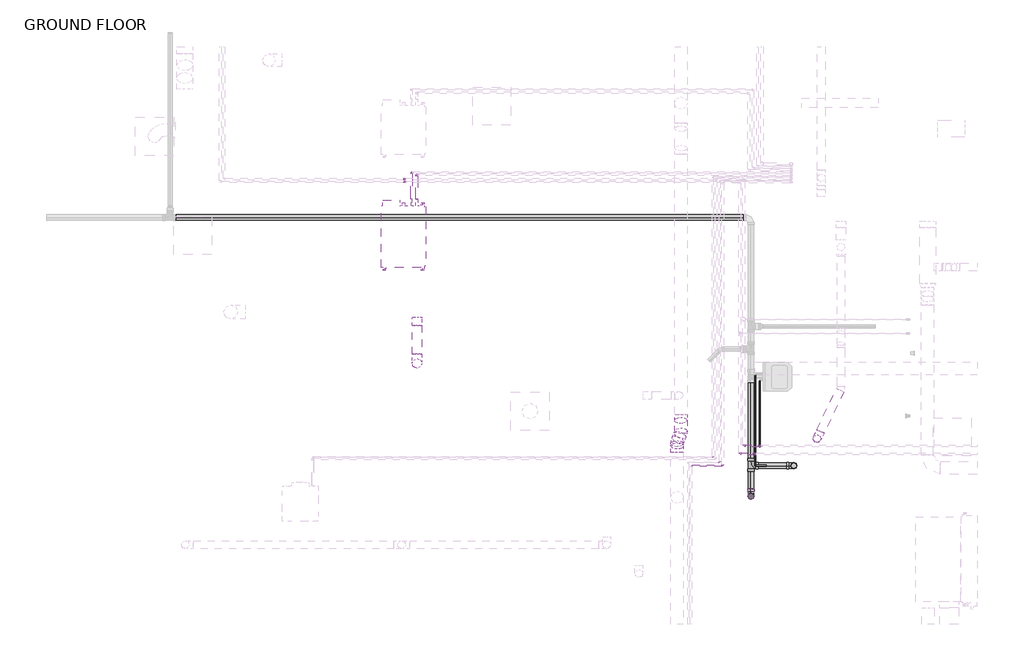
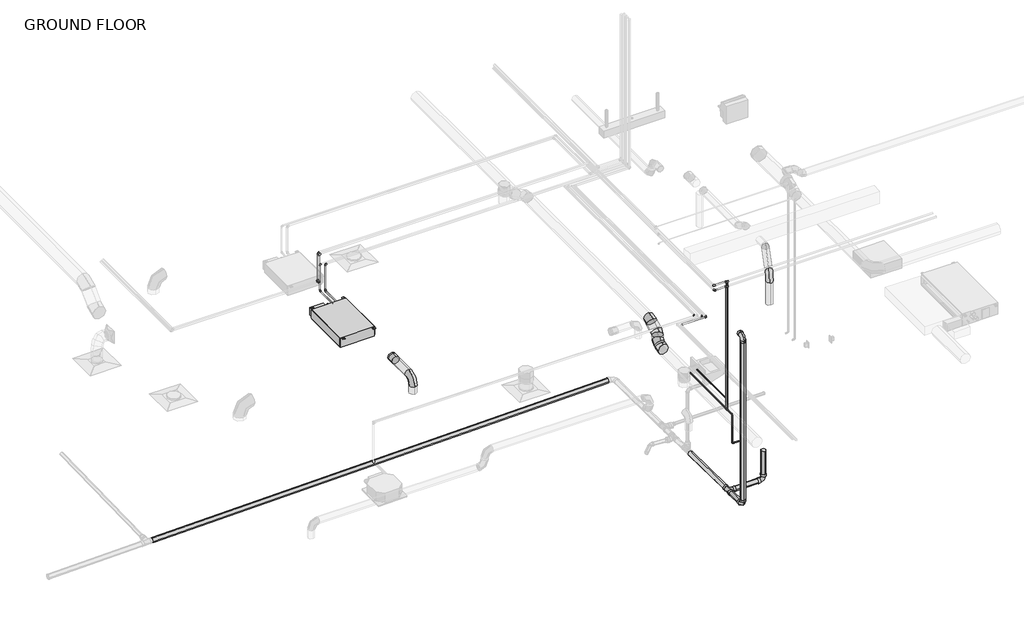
# One storey, part 12 of 22: 28 pipe fittings, 22 pipe segments, 7 duct fittings, 7 duct segments, 1 proxy.
"""IFC4 building model written with IfcOpenShell, lengths in millimetres."""

from ifc_helpers import new_model, si_unit, point, frame, frame_2d, origin, place, context, project, spatial, circle_curve, trimmed, segment, composite_curve, outline, extrude, transform, mapped, element, save
from components import mechanical_equipment_be926906, round_elbow_1_d_b37ad80b, round_elbow_1_d_c80420c1, round_elbow_1_d_9364b203, round_elbow_1_d_5bbd179f, round_takeoff_standard_d0146e83, bend_pvc_sch_40_dwv_standard_5536a2d2, bend_pvc_sch_40_dwv_standard_765d4315, bend_pvc_sch_40_dwv_standard_f7db62e3, elbow_generic_standard_c06ac706, elbow_generic_standard_738589b0, elbow_generic_standard_a088f956, elbow_generic_standard_c5dfc7a5, elbow_generic_standard_e45579ec, tee_generic_standard_d345b28c, tee_sanitary_pvc_sch_40_dwv_standard_8de014e1, transition_generic_standard_19d9bb8b, transition_generic_standard_44e35838, transition_generic_standard_df161815, transition_generic_standard_43f54093

model = new_model("IFC4")

# Units and contexts
model_context = context("Model", 3, world=origin())
ifc_project = project(units=[si_unit("LENGTHUNIT", "METRE", prefix="MILLI")], contexts=[model_context])

# Site, building, storey
site = spatial("IfcSite", under=ifc_project)
building = spatial("IfcBuilding", under=site)
storey = spatial("IfcBuildingStorey", under=building, Name="GROUND FLOOR", Elevation=30480.0)

# Proxy
placement = place(None, origin())
mechanical_equipment_shape = mechanical_equipment_be926906(model_context)
element("IfcBuildingElementProxy", 1, Name="PEFY-P-NMSU-E_Low_Profile_Ducted : PEFY-P15NMSU-E", ObjectType="PEFY-P-NMSU-E_Low_Profile_Ducted : PEFY-P15NMSU-E", at=placement, inside=storey, context=model_context, shape_type="MappedRepresentation", body=[
    mapped(mechanical_equipment_shape, transform((-15624.8774525, 6541.2842307, 33021.6591996), x_axis=(0.0, 1.0, 0.0), y_axis=(-1.0, 0.0, 0.0), z_axis=(0.0, 0.0, 1.0))),
])

# Duct fittings
round_elbow_1_d_shape = round_elbow_1_d_b37ad80b(model_context)
element("IfcDuctFitting", 2, ObjectType="Round Elbow : 1 D", at=placement, inside=storey, context=model_context, shape_type="MappedRepresentation", body=[
    mapped(round_elbow_1_d_shape, transform((-15410.4954607, 4511.0820005, 33121.6), x_axis=(0.0, -1.0, 0.0), y_axis=(0.0, 0.0, -1.0), z_axis=(1.0, 0.0, 0.0))),
])
round_elbow_1_d_2_shape = round_elbow_1_d_c80420c1(model_context)
element("IfcDuctFitting", 3, ObjectType="Round Elbow : 1 D", at=placement, inside=storey, context=model_context, shape_type="MappedRepresentation", body=[
    mapped(round_elbow_1_d_2_shape, transform((-9019.2204607, 3309.3445005, 33769.3), x_axis=(0.0, 0.0, 1.0), y_axis=(0.43029426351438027, 0.9026886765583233, 0.0), z_axis=(-0.9026886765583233, 0.43029426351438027, 0.0))),
])
round_elbow_1_d_3_shape = round_elbow_1_d_9364b203(model_context)
element("IfcDuctFitting", 4, ObjectType="Round Elbow : 1 D", at=placement, inside=storey, context=model_context, shape_type="MappedRepresentation", body=[
    mapped(round_elbow_1_d_3_shape, transform((-11194.8892107, 3645.7099951, 33401.0), x_axis=(0.0, -1.0, 0.0), y_axis=(0.0, 0.0, -1.0), z_axis=(1.0, 0.0, 0.0))),
])
element("IfcDuctFitting", 5, ObjectType="Round Elbow : 1 D", at=placement, inside=storey, context=model_context, shape_type="MappedRepresentation", body=[
    mapped(round_elbow_1_d_3_shape, transform((-11256.8513201, 3144.8540791, 33121.6), x_axis=(0.0, 1.0, 0.0), y_axis=(0.0, 0.0, 1.0), z_axis=(1.0, 0.0, 0.0))),
])
round_elbow_1_d_4_shape = round_elbow_1_d_5bbd179f(model_context)
element("IfcDuctFitting", 6, ObjectType="Round Elbow : 1 D", at=placement, inside=storey, context=model_context, shape_type="MappedRepresentation", body=[
    mapped(round_elbow_1_d_4_shape, transform((-11194.8892107, 3397.4009398, 33262.4820194), x_axis=(0.3723469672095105, 0.8105107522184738, 0.4521394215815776), y_axis=(-0.928093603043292, 0.32517325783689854, 0.18139629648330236), z_axis=(0.0, -0.4871700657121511, 0.8733071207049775))),
])
element("IfcDuctFitting", 7, ObjectType="Round Elbow : 1 D", at=placement, inside=storey, context=model_context, shape_type="MappedRepresentation", body=[
    mapped(round_elbow_1_d_4_shape, transform((-11256.8513201, 3262.5241708, 33187.2416797), x_axis=(-0.372346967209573, -0.8105107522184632, -0.45213942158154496), y_axis=(0.9280936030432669, -0.325173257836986, -0.18139629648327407), z_axis=(0.0, -0.48717006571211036, 0.8733071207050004))),
])
round_takeoff_standard_shape = round_takeoff_standard_d0146e83(model_context)
element("IfcDuctFitting", 8, ObjectType="Round Takeoff : Standard", at=placement, inside=storey, context=model_context, shape_type="MappedRepresentation", body=[
    mapped(round_takeoff_standard_shape, transform((-15410.4954607, 5220.6945005, 33121.6), x_axis=(0.0, -1.0, 0.0), y_axis=(-1.0, 0.0, 0.0), z_axis=(0.0, 0.0, -1.0))),
])

# Duct segments
element("IfcDuctSegment", 9, ObjectType="Taps / Short Radius", at=placement, inside=storey, context=model_context, shape_type="SweptSolid", body=[
    extrude(outline(composite_curve([segment(trimmed(circle_curve(frame_2d((0.0, -101.6)), 101.6), [point((-101.6, -101.6))], [point((0.0, 0.0))], False, "CARTESIAN"), True, "CONTINUOUS"), segment(trimmed(circle_curve(frame_2d((0.0, -101.6)), 101.6), [point((0.0, 0.0))], [point((101.6, -101.6))], False, "CARTESIAN"), True, "CONTINUOUS"), segment(trimmed(circle_curve(frame_2d((0.0, -101.6)), 101.6), [point((101.6, -101.6))], [point((0.0, -203.2))], False, "CARTESIAN"), True, "CONTINUOUS"), segment(trimmed(circle_curve(frame_2d((0.0, -101.6)), 101.6), [point((0.0, -203.2))], [point((-101.6, -101.6))], False, "CARTESIAN"), True, "CONTINUOUS")], self_intersect=False)), frame((-11256.8513201, 3240.49956, 33058.6159896), z_axis=(0.0, 0.8733071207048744, 0.48717006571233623), x_axis=(1.0, 0.0, 0.0)), (0.0, 0.0, 1.0), 42.6555331),
])
element("IfcDuctSegment", 10, ObjectType="Taps / Short Radius", at=placement, inside=storey, context=model_context, shape_type="SweptSolid", body=[
    extrude(outline(composite_curve([segment(trimmed(circle_curve(frame_2d((0.0, -101.6)), 101.6), [point((-101.6, -101.6))], [point((0.0, 0.0))], False, "CARTESIAN"), True, "CONTINUOUS"), segment(trimmed(circle_curve(frame_2d((0.0, -101.6)), 101.6), [point((0.0, 0.0))], [point((101.6, -101.6))], False, "CARTESIAN"), True, "CONTINUOUS"), segment(trimmed(circle_curve(frame_2d((0.0, -101.6)), 101.6), [point((101.6, -101.6))], [point((0.0, -203.2))], False, "CARTESIAN"), True, "CONTINUOUS"), segment(trimmed(circle_curve(frame_2d((0.0, -101.6)), 101.6), [point((0.0, -203.2))], [point((-101.6, -101.6))], False, "CARTESIAN"), True, "CONTINUOUS")], self_intersect=False)), frame((-11194.8892107, 3481.1671271, 33192.8712037), z_axis=(0.0, 0.8733071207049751, 0.48717006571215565), x_axis=(1.0, 0.0, 0.0)), (0.0, 0.0, 1.0), 192.2466226),
])
element("IfcDuctSegment", 11, ObjectType="Taps / Short Radius", at=placement, inside=storey, context=model_context, shape_type="SweptSolid", body=[
    extrude(outline(composite_curve([segment(trimmed(circle_curve(frame_2d((0.0, -101.6)), 101.6), [point((-99.4767358, -80.9374965))], [point((20.6625035, -2.1232642))], False, "CARTESIAN"), True, "CONTINUOUS"), segment(trimmed(circle_curve(frame_2d((0.0, -101.6)), 101.6), [point((20.6625035, -2.1232642))], [point((99.4767357, -122.2625035))], False, "CARTESIAN"), True, "CONTINUOUS"), segment(trimmed(circle_curve(frame_2d((0.0, -101.6)), 101.6), [point((99.4767357, -122.2625035))], [point((-20.6625035, -201.0767357))], False, "CARTESIAN"), True, "CONTINUOUS"), segment(trimmed(circle_curve(frame_2d((0.0, -101.6)), 101.6), [point((-20.6625035, -201.0767357))], [point((-99.4767358, -80.9374965))], False, "CARTESIAN"), True, "CONTINUOUS")], self_intersect=False)), frame((-11242.2399402, 3343.8261468, 33116.2562159), z_axis=(0.37234696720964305, 0.8105107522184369, 0.4521394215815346), x_axis=(0.928093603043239, -0.3251732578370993, -0.18139629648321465)), (0.0, 0.0, 1.0), 87.9269943),
])
element("IfcDuctSegment", 12, ObjectType="Taps / Short Radius", at=placement, inside=storey, context=model_context, shape_type="SweptSolid", body=[
    extrude(outline(composite_curve([segment(trimmed(circle_curve(frame_2d((0.0, 63.5)), 63.5), [point((63.4999999, 63.5))], [point((0.0, 0.0))], False, "CARTESIAN"), True, "CONTINUOUS"), segment(trimmed(circle_curve(frame_2d((0.0, 63.5)), 63.5), [point((0.0, 0.0))], [point((-63.5000001, 63.5))], False, "CARTESIAN"), True, "CONTINUOUS"), segment(trimmed(circle_curve(frame_2d((0.0, 63.5)), 63.5), [point((-63.5000001, 63.5))], [point((0.0, 127.0))], False, "CARTESIAN"), True, "CONTINUOUS"), segment(trimmed(circle_curve(frame_2d((0.0, 63.5)), 63.5), [point((0.0, 127.0))], [point((63.4999999, 63.5))], False, "CARTESIAN"), True, "CONTINUOUS")], self_intersect=False)), frame((-8964.5730892, 3423.9859624, 33832.8), z_axis=(0.43029426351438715, 0.90268867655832, 0.0), x_axis=(0.90268867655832, -0.43029426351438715, 0.0)), (0.0, 0.0, 1.0), 733.4087791),
])
element("IfcDuctSegment", 13, ObjectType="Taps / Short Radius", at=placement, inside=storey, context=model_context, shape_type="SweptSolid", body=[
    extrude(outline(composite_curve([segment(trimmed(circle_curve(frame_2d((-9019.2204607, 3309.3445005)), 63.5), [point((-8955.7204607, 3309.3445005))], [point((-9019.2204607, 3245.8445005))], False, "CARTESIAN"), True, "CONTINUOUS"), segment(trimmed(circle_curve(frame_2d((-9019.2204607, 3309.3445005)), 63.5), [point((-9019.2204607, 3245.8445005))], [point((-9082.7204607, 3309.3445005))], False, "CARTESIAN"), True, "CONTINUOUS"), segment(trimmed(circle_curve(frame_2d((-9019.2204607, 3309.3445005)), 63.5), [point((-9082.7204607, 3309.3445005))], [point((-9019.2204607, 3372.8445005))], False, "CARTESIAN"), True, "CONTINUOUS"), segment(trimmed(circle_curve(frame_2d((-9019.2204607, 3309.3445005)), 63.5), [point((-9019.2204607, 3372.8445005))], [point((-8955.7204607, 3309.3445005))], False, "CARTESIAN"), True, "CONTINUOUS")], self_intersect=False)), frame((0.0, 0.0, 33172.4), z_axis=(0.0, 0.0, 1.0), x_axis=(1.0, 0.0, 0.0)), (0.0, 0.0, 1.0), 469.9),
])
element("IfcDuctSegment", 14, ObjectType="Taps / Short Radius", at=placement, inside=storey, context=model_context, shape_type="SweptSolid", body=[
    extrude(outline(composite_curve([segment(trimmed(circle_curve(frame_2d((-15410.4954607, 4511.0820005)), 76.2), [point((-15486.6954607, 4511.0820005))], [point((-15410.4954607, 4587.2820005))], False, "CARTESIAN"), True, "CONTINUOUS"), segment(trimmed(circle_curve(frame_2d((-15410.4954607, 4511.0820005)), 76.2), [point((-15410.4954607, 4587.2820005))], [point((-15334.2954607, 4511.0820005))], False, "CARTESIAN"), True, "CONTINUOUS"), segment(trimmed(circle_curve(frame_2d((-15410.4954607, 4511.0820005)), 76.2), [point((-15334.2954607, 4511.0820005))], [point((-15410.4954607, 4434.8820005))], False, "CARTESIAN"), True, "CONTINUOUS"), segment(trimmed(circle_curve(frame_2d((-15410.4954607, 4511.0820005)), 76.2), [point((-15410.4954607, 4434.8820005))], [point((-15486.6954607, 4511.0820005))], False, "CARTESIAN"), True, "CONTINUOUS")], self_intersect=False)), frame((0.0, 0.0, 32816.8), z_axis=(0.0, 0.0, 1.0), x_axis=(1.0, 0.0, 0.0)), (0.0, 0.0, 1.0), 152.4),
])
element("IfcDuctSegment", 15, ObjectType="Taps / Short Radius", at=placement, inside=storey, context=model_context, shape_type="SweptSolid", body=[
    extrude(outline(composite_curve([segment(trimmed(circle_curve(frame_2d((33121.6, -15410.4954607)), 76.2), [point((33121.6, -15486.6954607))], [point((33045.4, -15410.4954607))], False, "CARTESIAN"), True, "CONTINUOUS"), segment(trimmed(circle_curve(frame_2d((33121.6, -15410.4954607)), 76.2), [point((33045.4, -15410.4954607))], [point((33121.6, -15334.2954607))], False, "CARTESIAN"), True, "CONTINUOUS"), segment(trimmed(circle_curve(frame_2d((33121.6, -15410.4954607)), 76.2), [point((33121.6, -15334.2954607))], [point((33197.8, -15410.4954607))], False, "CARTESIAN"), True, "CONTINUOUS"), segment(trimmed(circle_curve(frame_2d((33121.6, -15410.4954607)), 76.2), [point((33197.8, -15410.4954607))], [point((33121.6, -15486.6954607))], False, "CARTESIAN"), True, "CONTINUOUS")], self_intersect=False)), frame((0.0, 4663.4820005, 0.0), z_axis=(0.0, 1.0, 0.0), x_axis=(0.0, 0.0, 1.0)), (0.0, 0.0, 1.0), 455.6125),
])

# Pipe fittings
bend_pvc_sch_40_dwv_standard_shape = bend_pvc_sch_40_dwv_standard_5536a2d2(model_context)
element("IfcPipeFitting", 16, ObjectType="Bend - PVC - Sch 40 - DWV : Standard", at=placement, inside=storey, context=model_context, shape_type="MappedRepresentation", body=[
    mapped(bend_pvc_sch_40_dwv_standard_shape, transform((-9390.6954607, 2877.5445005, 29870.4), x_axis=(0.0, 0.0, -1.0), y_axis=(-1.0, 0.0, 0.0), z_axis=(0.0, 1.0, 0.0))),
])
bend_pvc_sch_40_dwv_standard_2_shape = bend_pvc_sch_40_dwv_standard_765d4315(model_context)
element("IfcPipeFitting", 17, ObjectType="Bend - PVC - Sch 40 - DWV : Standard", at=placement, inside=storey, context=model_context, shape_type="MappedRepresentation", body=[
    mapped(bend_pvc_sch_40_dwv_standard_2_shape, transform((-10076.4954607, 2389.143747, 29868.2927032), x_axis=(0.0, -0.9999470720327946, 0.010288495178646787), y_axis=(0.0, 0.010288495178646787, 0.9999470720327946), z_axis=(-1.0, 0.0, 0.0))),
])
bend_pvc_sch_40_dwv_standard_3_shape = bend_pvc_sch_40_dwv_standard_f7db62e3(model_context)
element("IfcPipeFitting", 18, ObjectType="Bend - PVC - Sch 40 - DWV : Standard", at=placement, inside=storey, context=model_context, shape_type="MappedRepresentation", body=[
    mapped(bend_pvc_sch_40_dwv_standard_3_shape, transform((-10076.4954607, 2389.1242541, 33412.0998), x_axis=(0.0, 0.0, 1.0), y_axis=(0.0, 1.0, 0.0), z_axis=(-1.0, 0.0, 0.0))),
])
elbow_generic_standard_shape = elbow_generic_standard_c06ac706(model_context)
element("IfcPipeFitting", 19, ObjectType="Elbow - Generic : Standard", at=placement, inside=storey, context=model_context, shape_type="MappedRepresentation", body=[
    mapped(elbow_generic_standard_shape, transform((-15415.123395, 7528.3379884, 33680.4), x_axis=(0.0, 0.0, 1.0), y_axis=(1.0, 0.0, 0.0), z_axis=(0.0, 1.0, 0.0))),
])
element("IfcPipeFitting", 20, ObjectType="Elbow - Generic : Standard", at=placement, inside=storey, context=model_context, shape_type="MappedRepresentation", body=[
    mapped(elbow_generic_standard_shape, transform((-10524.9642107, 2875.8543566, 33680.4), x_axis=(1.0, 0.0, 0.0), y_axis=(0.0, 1.0, 0.0), z_axis=(0.0, 0.0, 1.0))),
])
element("IfcPipeFitting", 21, ObjectType="Elbow - Generic : Standard", at=placement, inside=storey, context=model_context, shape_type="MappedRepresentation", body=[
    mapped(elbow_generic_standard_shape, transform((-10189.2079607, 3193.0718518, 34023.3), x_axis=(0.0, -1.0, 0.0), y_axis=(0.9999999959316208, 0.0, -9.020398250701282e-05), z_axis=(9.020398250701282e-05, 0.0, 0.9999999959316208))),
])
element("IfcPipeFitting", 22, ObjectType="Elbow - Generic : Standard", at=placement, inside=storey, context=model_context, shape_type="MappedRepresentation", body=[
    mapped(elbow_generic_standard_shape, transform((-10252.7079607, 3066.0718518, 34023.3), x_axis=(0.0, -1.0, 0.0), y_axis=(1.0, 0.0, 0.0), z_axis=(0.0, 0.0, 1.0))),
])
element("IfcPipeFitting", 23, ObjectType="Elbow - Generic : Standard", at=placement, inside=storey, context=model_context, shape_type="MappedRepresentation", body=[
    mapped(elbow_generic_standard_shape, transform((-15603.3767107, 7460.2718518, 34023.3), x_axis=(-1.0, 0.0, 0.0), y_axis=(0.0, 0.0, -1.0), z_axis=(0.0, -1.0, 0.0))),
])
element("IfcPipeFitting", 24, ObjectType="Elbow - Generic : Standard", at=placement, inside=storey, context=model_context, shape_type="MappedRepresentation", body=[
    mapped(elbow_generic_standard_shape, transform((-15603.3767107, 7460.2718518, 33436.8475147), x_axis=(0.0, 0.0, -1.0), y_axis=(-1.0, 0.0, 0.0), z_axis=(0.0, 1.0, 0.0))),
])
element("IfcPipeFitting", 25, ObjectType="Elbow - Generic : Standard", at=placement, inside=storey, context=model_context, shape_type="MappedRepresentation", body=[
    mapped(elbow_generic_standard_shape, transform((-15603.3767107, 7415.8218518, 34023.3), x_axis=(-1.0, 0.0, 0.0), y_axis=(0.0, 0.0, -1.0), z_axis=(0.0, -1.0, 0.0))),
])
element("IfcPipeFitting", 26, ObjectType="Elbow - Generic : Standard", at=placement, inside=storey, context=model_context, shape_type="MappedRepresentation", body=[
    mapped(elbow_generic_standard_shape, transform((-15603.3767107, 7415.8218518, 33436.8475147), x_axis=(0.0, 0.0, -1.0), y_axis=(-1.0, 0.0, 0.0), z_axis=(0.0, 1.0, 0.0))),
])
elbow_generic_standard_2_shape = elbow_generic_standard_738589b0(model_context)
element("IfcPipeFitting", 27, ObjectType="Elbow - Generic : Standard", at=placement, inside=storey, context=model_context, shape_type="MappedRepresentation", body=[
    mapped(elbow_generic_standard_2_shape, transform((-15498.3177546, 7567.6740548, 33680.4), x_axis=(0.0, 0.0, 1.0), y_axis=(1.0, 0.0, 0.0), z_axis=(0.0, 1.0, 0.0))),
])
elbow_generic_standard_3_shape = elbow_generic_standard_a088f956(model_context)
element("IfcPipeFitting", 28, ObjectType="Elbow - Generic : Standard", at=placement, inside=storey, context=model_context, shape_type="MappedRepresentation", body=[
    mapped(elbow_generic_standard_3_shape, transform((-10682.7765455, 3013.8265677, 33680.4), x_axis=(1.0, 0.0, 0.0), y_axis=(0.0, 1.0, 0.0), z_axis=(0.0, 0.0, 1.0))),
])
element("IfcPipeFitting", 29, ObjectType="Elbow - Generic : Standard", at=placement, inside=storey, context=model_context, shape_type="MappedRepresentation", body=[
    mapped(elbow_generic_standard_3_shape, transform((-10572.5892107, 2930.0843297, 33680.4), x_axis=(1.0, 0.0, 0.0), y_axis=(0.0, 1.0, 0.0), z_axis=(0.0, 0.0, 1.0))),
])
element("IfcPipeFitting", 30, ObjectType="Elbow - Generic : Standard", at=placement, inside=storey, context=model_context, shape_type="MappedRepresentation", body=[
    mapped(elbow_generic_standard_3_shape, transform((-9933.6204607, 3193.0718518, 31546.8), x_axis=(0.0, 0.0, -1.0), y_axis=(0.0, 1.0, 0.0), z_axis=(1.0, 0.0, 0.0))),
])
element("IfcPipeFitting", 31, ObjectType="Elbow - Generic : Standard", at=placement, inside=storey, context=model_context, shape_type="MappedRepresentation", body=[
    mapped(elbow_generic_standard_3_shape, transform((-10009.8204607, 2877.5445005, 30835.6), x_axis=(-1.0, 0.0, 0.0), y_axis=(0.0, 0.0, 1.0), z_axis=(0.0, 1.0, 0.0))),
])
element("IfcPipeFitting", 32, ObjectType="Elbow - Generic : Standard", at=placement, inside=storey, context=model_context, shape_type="MappedRepresentation", body=[
    mapped(elbow_generic_standard_3_shape, transform((-10009.8204607, 2877.5445005, 31444.5384847), x_axis=(0.0, -1.0, 0.0), y_axis=(0.0, 0.0, -1.0), z_axis=(1.0, 0.0, 0.0))),
])
elbow_generic_standard_4_shape = elbow_generic_standard_c5dfc7a5(model_context)
element("IfcPipeFitting", 33, ObjectType="Elbow - Generic : Standard", at=placement, inside=storey, context=model_context, shape_type="MappedRepresentation", body=[
    mapped(elbow_generic_standard_4_shape, transform((-15498.3177546, 7567.6740548, 33121.6561098), x_axis=(0.0, 0.999999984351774, -0.00017690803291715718), y_axis=(0.0, 0.00017690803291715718, 0.999999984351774), z_axis=(1.0, 0.0, 0.0))),
])
elbow_generic_standard_5_shape = elbow_generic_standard_e45579ec(model_context)
element("IfcPipeFitting", 34, ObjectType="Elbow - Generic : Standard", at=placement, inside=storey, context=model_context, shape_type="MappedRepresentation", body=[
    mapped(elbow_generic_standard_5_shape, transform((-15415.123395, 7528.3379884, 33121.5849403), x_axis=(0.0, 0.9999999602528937, -0.0002819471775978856), y_axis=(0.0, 0.0002819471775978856, 0.9999999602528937), z_axis=(1.0, 0.0, 0.0))),
])
tee_generic_standard_shape = tee_generic_standard_d345b28c(model_context)
element("IfcPipeFitting", 35, ObjectType="Tee - Generic : Standard", at=placement, inside=storey, context=model_context, shape_type="MappedRepresentation", body=[
    mapped(tee_generic_standard_shape, transform((-10009.8204607, 3066.0718518, 31444.5384847), x_axis=(0.0, -1.0, 0.0), y_axis=(0.0, 0.0, -1.0), z_axis=(1.0, 0.0, 0.0))),
])
element("IfcPipeFitting", 36, ObjectType="Tee - Generic : Standard", at=placement, inside=storey, context=model_context, shape_type="MappedRepresentation", body=[
    mapped(tee_generic_standard_shape, transform((-9933.6204607, 3193.0718518, 34023.2981384), x_axis=(-1.0, 0.0, 0.0), y_axis=(0.0, 0.0, 1.0), z_axis=(0.0, 1.0, 0.0))),
])
element("IfcPipeFitting", 37, ObjectType="Tee - Generic : Standard", at=placement, inside=storey, context=model_context, shape_type="MappedRepresentation", body=[
    mapped(tee_generic_standard_shape, transform((-10009.8204607, 3066.0718518, 34023.3), x_axis=(-1.0, 0.0, 0.0), y_axis=(0.0, 0.0, 1.0), z_axis=(0.0, 1.0, 0.0))),
])
tee_sanitary_pvc_sch_40_dwv_standard_shape = tee_sanitary_pvc_sch_40_dwv_standard_8de014e1(model_context)
element("IfcPipeFitting", 38, ObjectType="Tee Sanitary - PVC - Sch 40 - DWV : Standard", at=placement, inside=storey, context=model_context, shape_type="MappedRepresentation", body=[
    mapped(tee_sanitary_pvc_sch_40_dwv_standard_shape, transform((-10076.4954607, 2877.5445005, 29863.25625), x_axis=(0.0, -0.9999457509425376, 0.010416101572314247), y_axis=(-0.9999457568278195, -0.00010848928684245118, -0.010414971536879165), z_axis=(0.01041553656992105, -0.010415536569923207, -0.9998915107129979))),
])
transition_generic_standard_shape = transition_generic_standard_19d9bb8b(model_context)
element("IfcPipeFitting", 39, ObjectType="Transition - Generic : Standard", at=placement, inside=storey, context=model_context, shape_type="MappedRepresentation", body=[
    mapped(transition_generic_standard_shape, transform((-9933.6204607, 3193.0718518, 31568.23125), x_axis=(0.0, 0.0, -1.0), y_axis=(-1.0, 0.0, 0.0), z_axis=(0.0, 1.0, 0.0))),
])
element("IfcPipeFitting", 40, ObjectType="Transition - Generic : Standard", at=placement, inside=storey, context=model_context, shape_type="MappedRepresentation", body=[
    mapped(transition_generic_standard_shape, transform((-10009.8204607, 3039.0843518, 31444.5384847), x_axis=(0.0, -1.0, 0.0), y_axis=(1.0, 0.0, 0.0), z_axis=(0.0, 0.0, 1.0))),
])
transition_generic_standard_2_shape = transition_generic_standard_44e35838(model_context)
element("IfcPipeFitting", 41, ObjectType="Transition - Generic : Standard", at=placement, inside=storey, context=model_context, shape_type="MappedRepresentation", body=[
    mapped(transition_generic_standard_2_shape, transform((-9989.9767107, 2877.5445005, 30835.6), x_axis=(-1.0, 0.0, 0.0), y_axis=(0.0, -1.0, 0.0), z_axis=(0.0, 0.0, 1.0))),
])
transition_generic_standard_3_shape = transition_generic_standard_df161815(model_context)
element("IfcPipeFitting", 42, ObjectType="Transition - Generic : Standard", at=placement, inside=storey, context=model_context, shape_type="MappedRepresentation", body=[
    mapped(transition_generic_standard_3_shape, transform((-10009.8204607, 3093.0593518, 31444.5384847), x_axis=(0.0, 1.0, 0.0), y_axis=(-1.0, 0.0, 0.0), z_axis=(0.0, 0.0, 1.0))),
])
transition_generic_standard_4_shape = transition_generic_standard_43f54093(model_context)
element("IfcPipeFitting", 43, ObjectType="Transition - Generic : Standard", at=placement, inside=storey, context=model_context, shape_type="MappedRepresentation", body=[
    mapped(transition_generic_standard_4_shape, transform((-15498.3177546, 7136.5842307, 33121.6591996), x_axis=(0.0, 1.0, 0.0), y_axis=(-1.0, 0.0, 0.0), z_axis=(0.0, 0.0, 1.0))),
])

# Pipe segments
element("IfcPipeSegment", 44, ObjectType="Copper Tubing", at=placement, inside=storey, context=model_context, shape_type="SweptSolid", body=[
    extrude(outline(composite_curve([segment(trimmed(circle_curve(frame_2d((33121.6591996, -15498.3177546)), 11.1125), [point((33121.6591996, -15487.2052546))], [point((33132.7716996, -15498.3177546))], False, "CARTESIAN"), True, "CONTINUOUS"), segment(trimmed(circle_curve(frame_2d((33121.6591996, -15498.3177546)), 11.1125), [point((33132.7716996, -15498.3177546))], [point((33121.6591996, -15509.4302546))], False, "CARTESIAN"), True, "CONTINUOUS"), segment(trimmed(circle_curve(frame_2d((33121.6591996, -15498.3177546)), 11.1125), [point((33121.6591996, -15509.4302546))], [point((33110.5466996, -15498.3177546))], False, "CARTESIAN"), True, "CONTINUOUS"), segment(trimmed(circle_curve(frame_2d((33121.6591996, -15498.3177546)), 11.1125), [point((33110.5466996, -15498.3177546))], [point((33121.6591996, -15487.2052546))], False, "CARTESIAN"), True, "CONTINUOUS")], self_intersect=False)), frame((0.0, 7142.1404807, 0.0), z_axis=(0.0, 1.0, 0.0), x_axis=(0.0, 0.0, 1.0)), (0.0, 0.0, 1.0), 408.0679848),
])
element("IfcPipeSegment", 45, ObjectType="Copper Tubing", at=placement, inside=storey, context=model_context, shape_type="SweptSolid", body=[
    extrude(outline(composite_curve([segment(trimmed(circle_curve(frame_2d((-15498.3177546, 7567.6740548)), 11.1125), [point((-15509.4302546, 7567.6740548))], [point((-15498.3177546, 7578.7865548))], False, "CARTESIAN"), True, "CONTINUOUS"), segment(trimmed(circle_curve(frame_2d((-15498.3177546, 7567.6740548)), 11.1125), [point((-15498.3177546, 7578.7865548))], [point((-15487.2052546, 7567.6740548))], False, "CARTESIAN"), True, "CONTINUOUS"), segment(trimmed(circle_curve(frame_2d((-15498.3177546, 7567.6740548)), 11.1125), [point((-15487.2052546, 7567.6740548))], [point((-15498.3177546, 7556.5615548))], False, "CARTESIAN"), True, "CONTINUOUS"), segment(trimmed(circle_curve(frame_2d((-15498.3177546, 7567.6740548)), 11.1125), [point((-15498.3177546, 7556.5615548))], [point((-15509.4302546, 7567.6740548))], False, "CARTESIAN"), True, "CONTINUOUS")], self_intersect=False)), frame((0.0, 0.0, 33139.1216994), z_axis=(0.0, 0.0, 1.0), x_axis=(1.0, 0.0, 0.0)), (0.0, 0.0, 1.0), 523.8158006),
])
element("IfcPipeSegment", 46, ObjectType="Copper Tubing", at=placement, inside=storey, context=model_context, shape_type="SweptSolid", body=[
    extrude(outline(composite_curve([segment(trimmed(circle_curve(frame_2d((33121.5907606, -15415.123395)), 14.2875), [point((33121.5907606, -15400.835895))], [point((33135.8782606, -15415.123395))], False, "CARTESIAN"), True, "CONTINUOUS"), segment(trimmed(circle_curve(frame_2d((33121.5907606, -15415.123395)), 14.2875), [point((33135.8782606, -15415.123395))], [point((33121.5907606, -15429.410895))], False, "CARTESIAN"), True, "CONTINUOUS"), segment(trimmed(circle_curve(frame_2d((33121.5907606, -15415.123395)), 14.2875), [point((33121.5907606, -15429.410895))], [point((33107.3032606, -15415.123395))], False, "CARTESIAN"), True, "CONTINUOUS"), segment(trimmed(circle_curve(frame_2d((33121.5907606, -15415.123395)), 14.2875), [point((33107.3032606, -15415.123395))], [point((33121.5907606, -15400.835895))], False, "CARTESIAN"), True, "CONTINUOUS")], self_intersect=False)), frame((0.0, 7136.5842307, 0.0), z_axis=(0.0, 1.0, 0.0), x_axis=(0.0, 0.0, 1.0)), (0.0, 0.0, 1.0), 371.110439),
])
element("IfcPipeSegment", 47, ObjectType="Copper Tubing", at=placement, inside=storey, context=model_context, shape_type="SweptSolid", body=[
    extrude(outline(composite_curve([segment(trimmed(circle_curve(frame_2d((-15415.123395, 7528.3379884)), 14.2875), [point((-15429.410895, 7528.3379884))], [point((-15415.123395, 7542.6254884))], False, "CARTESIAN"), True, "CONTINUOUS"), segment(trimmed(circle_curve(frame_2d((-15415.123395, 7528.3379884)), 14.2875), [point((-15415.123395, 7542.6254884))], [point((-15400.835895, 7528.3379884))], False, "CARTESIAN"), True, "CONTINUOUS"), segment(trimmed(circle_curve(frame_2d((-15415.123395, 7528.3379884)), 14.2875), [point((-15400.835895, 7528.3379884))], [point((-15415.123395, 7514.0504884))], False, "CARTESIAN"), True, "CONTINUOUS"), segment(trimmed(circle_curve(frame_2d((-15415.123395, 7528.3379884)), 14.2875), [point((-15415.123395, 7514.0504884))], [point((-15429.410895, 7528.3379884))], False, "CARTESIAN"), True, "CONTINUOUS")], self_intersect=False)), frame((0.0, 0.0, 33142.2282598), z_axis=(0.0, 0.0, 1.0), x_axis=(1.0, 0.0, 0.0)), (0.0, 0.0, 1.0), 517.5342402),
])
element("IfcPipeSegment", 48, ObjectType="Copper Tubing", at=placement, inside=storey, context=model_context, shape_type="SweptSolid", body=[
    extrude(outline(composite_curve([segment(trimmed(circle_curve(frame_2d((2875.8543566, 33680.4)), 14.2875), [point((2861.5668566, 33680.4))], [point((2875.8543566, 33694.6875))], False, "CARTESIAN"), True, "CONTINUOUS"), segment(trimmed(circle_curve(frame_2d((2875.8543566, 33680.4)), 14.2875), [point((2875.8543566, 33694.6875))], [point((2890.1418566, 33680.4))], False, "CARTESIAN"), True, "CONTINUOUS"), segment(trimmed(circle_curve(frame_2d((2875.8543566, 33680.4)), 14.2875), [point((2890.1418566, 33680.4))], [point((2875.8543566, 33666.1125))], False, "CARTESIAN"), True, "CONTINUOUS"), segment(trimmed(circle_curve(frame_2d((2875.8543566, 33680.4)), 14.2875), [point((2875.8543566, 33666.1125))], [point((2861.5668566, 33680.4))], False, "CARTESIAN"), True, "CONTINUOUS")], self_intersect=False)), frame((-11012.3267107, 0.0, 0.0), z_axis=(1.0, 0.0, 0.0), x_axis=(0.0, 1.0, 0.0)), (0.0, 0.0, 1.0), 466.725),
])
element("IfcPipeSegment", 49, ObjectType="Copper Tubing", at=placement, inside=storey, context=model_context, shape_type="SweptSolid", body=[
    extrude(outline(composite_curve([segment(trimmed(circle_curve(frame_2d((-10009.8204607, 3066.0718518)), 14.2875), [point((-9995.5329607, 3066.0718518))], [point((-10009.8204607, 3051.7843518))], False, "CARTESIAN"), True, "CONTINUOUS"), segment(trimmed(circle_curve(frame_2d((-10009.8204607, 3066.0718518)), 14.2875), [point((-10009.8204607, 3051.7843518))], [point((-10024.1079607, 3066.0718518))], False, "CARTESIAN"), True, "CONTINUOUS"), segment(trimmed(circle_curve(frame_2d((-10009.8204607, 3066.0718518)), 14.2875), [point((-10024.1079607, 3066.0718518))], [point((-10009.8204607, 3080.3593518))], False, "CARTESIAN"), True, "CONTINUOUS"), segment(trimmed(circle_curve(frame_2d((-10009.8204607, 3066.0718518)), 14.2875), [point((-10009.8204607, 3080.3593518))], [point((-9995.5329607, 3066.0718518))], False, "CARTESIAN"), True, "CONTINUOUS")], self_intersect=False)), frame((0.0, 0.0, 31471.5259847), z_axis=(0.0, 0.0, 1.0), x_axis=(1.0, 0.0, 0.0)), (0.0, 0.0, 1.0), 2524.7865153),
])
element("IfcPipeSegment", 50, ObjectType="Copper Tubing", at=placement, inside=storey, context=model_context, shape_type="SweptSolid", body=[
    extrude(outline(composite_curve([segment(trimmed(circle_curve(frame_2d((-9933.6204607, 3193.0718518)), 14.2875), [point((-9919.3329607, 3193.0718518))], [point((-9933.6204607, 3178.7843518))], False, "CARTESIAN"), True, "CONTINUOUS"), segment(trimmed(circle_curve(frame_2d((-9933.6204607, 3193.0718518)), 14.2875), [point((-9933.6204607, 3178.7843518))], [point((-9947.9079607, 3193.0718518))], False, "CARTESIAN"), True, "CONTINUOUS"), segment(trimmed(circle_curve(frame_2d((-9933.6204607, 3193.0718518)), 14.2875), [point((-9947.9079607, 3193.0718518))], [point((-9933.6204607, 3207.3593518))], False, "CARTESIAN"), True, "CONTINUOUS"), segment(trimmed(circle_curve(frame_2d((-9933.6204607, 3193.0718518)), 14.2875), [point((-9933.6204607, 3207.3593518))], [point((-9919.3329607, 3193.0718518))], False, "CARTESIAN"), True, "CONTINUOUS")], self_intersect=False)), frame((0.0, 0.0, 31568.23125), z_axis=(0.0, 0.0, 1.0), x_axis=(1.0, 0.0, 0.0)), (0.0, 0.0, 1.0), 2428.0793884),
])
element("IfcPipeSegment", 51, ObjectType="Copper Tubing", at=placement, inside=storey, context=model_context, shape_type="SweptSolid", body=[
    extrude(outline(composite_curve([segment(trimmed(circle_curve(frame_2d((31546.8, -9933.6204607)), 7.9375), [point((31546.8, -9941.5579607))], [point((31538.8625, -9933.6204607))], False, "CARTESIAN"), True, "CONTINUOUS"), segment(trimmed(circle_curve(frame_2d((31546.8, -9933.6204607)), 7.9375), [point((31538.8625, -9933.6204607))], [point((31546.8, -9925.6829607))], False, "CARTESIAN"), True, "CONTINUOUS"), segment(trimmed(circle_curve(frame_2d((31546.8, -9933.6204607)), 7.9375), [point((31546.8, -9925.6829607))], [point((31554.7375, -9933.6204607))], False, "CARTESIAN"), True, "CONTINUOUS"), segment(trimmed(circle_curve(frame_2d((31546.8, -9933.6204607)), 7.9375), [point((31554.7375, -9933.6204607))], [point((31546.8, -9941.5579607))], False, "CARTESIAN"), True, "CONTINUOUS")], self_intersect=False)), frame((0.0, 3207.3593518, 0.0), z_axis=(0.0, 1.0, 0.0), x_axis=(0.0, 0.0, 1.0)), (0.0, 0.0, 1.0), 1024.3226487),
])
element("IfcPipeSegment", 52, ObjectType="Copper Tubing", at=placement, inside=storey, context=model_context, shape_type="SweptSolid", body=[
    extrude(outline(composite_curve([segment(trimmed(circle_curve(frame_2d((31444.5384847, -10009.8204607)), 7.9375), [point((31444.5384847, -10001.8829607))], [point((31452.4759847, -10009.8204607))], False, "CARTESIAN"), True, "CONTINUOUS"), segment(trimmed(circle_curve(frame_2d((31444.5384847, -10009.8204607)), 7.9375), [point((31452.4759847, -10009.8204607))], [point((31444.5384847, -10017.7579607))], False, "CARTESIAN"), True, "CONTINUOUS"), segment(trimmed(circle_curve(frame_2d((31444.5384847, -10009.8204607)), 7.9375), [point((31444.5384847, -10017.7579607))], [point((31436.6009847, -10009.8204607))], False, "CARTESIAN"), True, "CONTINUOUS"), segment(trimmed(circle_curve(frame_2d((31444.5384847, -10009.8204607)), 7.9375), [point((31436.6009847, -10009.8204607))], [point((31444.5384847, -10001.8829607))], False, "CARTESIAN"), True, "CONTINUOUS")], self_intersect=False)), frame((0.0, 3100.2031018, 0.0), z_axis=(0.0, 1.0, 0.0), x_axis=(0.0, 0.0, 1.0)), (0.0, 0.0, 1.0), 1233.0788987),
])
element("IfcPipeSegment", 53, ObjectType="Copper Tubing", at=placement, inside=storey, context=model_context, shape_type="SweptSolid", body=[
    extrude(outline(composite_curve([segment(trimmed(circle_curve(frame_2d((31444.5384847, -10009.8204607)), 7.9375), [point((31444.5384847, -10017.7579607))], [point((31436.6009847, -10009.8204607))], False, "CARTESIAN"), True, "CONTINUOUS"), segment(trimmed(circle_curve(frame_2d((31444.5384847, -10009.8204607)), 7.9375), [point((31436.6009847, -10009.8204607))], [point((31444.5384847, -10001.8829607))], False, "CARTESIAN"), True, "CONTINUOUS"), segment(trimmed(circle_curve(frame_2d((31444.5384847, -10009.8204607)), 7.9375), [point((31444.5384847, -10001.8829607))], [point((31452.4759847, -10009.8204607))], False, "CARTESIAN"), True, "CONTINUOUS"), segment(trimmed(circle_curve(frame_2d((31444.5384847, -10009.8204607)), 7.9375), [point((31452.4759847, -10009.8204607))], [point((31444.5384847, -10017.7579607))], False, "CARTESIAN"), True, "CONTINUOUS")], self_intersect=False)), frame((0.0, 2891.8320005, 0.0), z_axis=(0.0, 1.0, 0.0), x_axis=(0.0, 0.0, 1.0)), (0.0, 0.0, 1.0), 140.1086013),
])
element("IfcPipeSegment", 54, ObjectType="Copper Tubing", at=placement, inside=storey, context=model_context, shape_type="SweptSolid", body=[
    extrude(outline(composite_curve([segment(trimmed(circle_curve(frame_2d((-10009.8204607, 2877.5445005)), 7.9375), [point((-10017.7579607, 2877.5445005))], [point((-10009.8204607, 2885.4820005))], False, "CARTESIAN"), True, "CONTINUOUS"), segment(trimmed(circle_curve(frame_2d((-10009.8204607, 2877.5445005)), 7.9375), [point((-10009.8204607, 2885.4820005))], [point((-10001.8829607, 2877.5445005))], False, "CARTESIAN"), True, "CONTINUOUS"), segment(trimmed(circle_curve(frame_2d((-10009.8204607, 2877.5445005)), 7.9375), [point((-10001.8829607, 2877.5445005))], [point((-10009.8204607, 2869.6070005))], False, "CARTESIAN"), True, "CONTINUOUS"), segment(trimmed(circle_curve(frame_2d((-10009.8204607, 2877.5445005)), 7.9375), [point((-10009.8204607, 2869.6070005))], [point((-10017.7579607, 2877.5445005))], False, "CARTESIAN"), True, "CONTINUOUS")], self_intersect=False)), frame((0.0, 0.0, 30849.8875), z_axis=(0.0, 0.0, 1.0), x_axis=(1.0, 0.0, 0.0)), (0.0, 0.0, 1.0), 580.3634847),
])
element("IfcPipeSegment", 55, ObjectType="Copper Tubing", at=placement, inside=storey, context=model_context, shape_type="SweptSolid", body=[
    extrude(outline(composite_curve([segment(trimmed(circle_curve(frame_2d((2877.5445005, 30835.6)), 11.1125), [point((2888.6570005, 30835.6))], [point((2877.5445005, 30824.4875))], False, "CARTESIAN"), True, "CONTINUOUS"), segment(trimmed(circle_curve(frame_2d((2877.5445005, 30835.6)), 11.1125), [point((2877.5445005, 30824.4875))], [point((2866.4320005, 30835.6))], False, "CARTESIAN"), True, "CONTINUOUS"), segment(trimmed(circle_curve(frame_2d((2877.5445005, 30835.6)), 11.1125), [point((2866.4320005, 30835.6))], [point((2877.5445005, 30846.7125))], False, "CARTESIAN"), True, "CONTINUOUS"), segment(trimmed(circle_curve(frame_2d((2877.5445005, 30835.6)), 11.1125), [point((2877.5445005, 30846.7125))], [point((2888.6570005, 30835.6))], False, "CARTESIAN"), True, "CONTINUOUS")], self_intersect=False)), frame((-9989.9767107, 0.0, 0.0), z_axis=(1.0, 0.0, 0.0), x_axis=(0.0, 1.0, 0.0)), (0.0, 0.0, 1.0), 161.13125),
])
element("IfcPipeSegment", 56, ObjectType="Copper Tubing", at=placement, inside=storey, context=model_context, shape_type="SweptSolid", body=[
    extrude(outline(composite_curve([segment(trimmed(circle_curve(frame_2d((3193.0718518, 34023.2981384)), 14.2875), [point((3207.3593518, 34023.2981384))], [point((3193.0718518, 34009.0106384))], False, "CARTESIAN"), True, "CONTINUOUS"), segment(trimmed(circle_curve(frame_2d((3193.0718518, 34023.2981384)), 14.2875), [point((3193.0718518, 34009.0106384))], [point((3178.7843518, 34023.2981384))], False, "CARTESIAN"), True, "CONTINUOUS"), segment(trimmed(circle_curve(frame_2d((3193.0718518, 34023.2981384)), 14.2875), [point((3178.7843518, 34023.2981384))], [point((3193.0718518, 34037.5856384))], False, "CARTESIAN"), True, "CONTINUOUS"), segment(trimmed(circle_curve(frame_2d((3193.0718518, 34023.2981384)), 14.2875), [point((3193.0718518, 34037.5856384))], [point((3207.3593518, 34023.2981384))], False, "CARTESIAN"), True, "CONTINUOUS")], self_intersect=False)), frame((-10168.5704608, 0.0, 0.0), z_axis=(1.0, 0.0, 0.0), x_axis=(0.0, 1.0, 0.0)), (0.0, 0.0, 1.0), 207.9625001),
])
element("IfcPipeSegment", 57, ObjectType="Copper Tubing", at=placement, inside=storey, context=model_context, shape_type="SweptSolid", body=[
    extrude(outline(composite_curve([segment(trimmed(circle_curve(frame_2d((3066.0718518, 34023.3)), 14.2875), [point((3080.3593518, 34023.3))], [point((3066.0718518, 34009.0125))], False, "CARTESIAN"), True, "CONTINUOUS"), segment(trimmed(circle_curve(frame_2d((3066.0718518, 34023.3)), 14.2875), [point((3066.0718518, 34009.0125))], [point((3051.7843518, 34023.3))], False, "CARTESIAN"), True, "CONTINUOUS"), segment(trimmed(circle_curve(frame_2d((3066.0718518, 34023.3)), 14.2875), [point((3051.7843518, 34023.3))], [point((3066.0718518, 34037.5875))], False, "CARTESIAN"), True, "CONTINUOUS"), segment(trimmed(circle_curve(frame_2d((3066.0718518, 34023.3)), 14.2875), [point((3066.0718518, 34037.5875))], [point((3080.3593518, 34023.3))], False, "CARTESIAN"), True, "CONTINUOUS")], self_intersect=False)), frame((-10232.0704607, 0.0, 0.0), z_axis=(1.0, 0.0, 0.0), x_axis=(0.0, 1.0, 0.0)), (0.0, 0.0, 1.0), 195.2625),
])
element("IfcPipeSegment", 58, ObjectType="Copper Tubing", at=placement, inside=storey, context=model_context, shape_type="SweptSolid", body=[
    extrude(outline(composite_curve([segment(trimmed(circle_curve(frame_2d((-15603.3767107, 7460.2718518)), 14.2875), [point((-15589.0892107, 7460.2718518))], [point((-15603.3767107, 7445.9843518))], False, "CARTESIAN"), True, "CONTINUOUS"), segment(trimmed(circle_curve(frame_2d((-15603.3767107, 7460.2718518)), 14.2875), [point((-15603.3767107, 7445.9843518))], [point((-15617.6642107, 7460.2718518))], False, "CARTESIAN"), True, "CONTINUOUS"), segment(trimmed(circle_curve(frame_2d((-15603.3767107, 7460.2718518)), 14.2875), [point((-15617.6642107, 7460.2718518))], [point((-15603.3767107, 7474.5593518))], False, "CARTESIAN"), True, "CONTINUOUS"), segment(trimmed(circle_curve(frame_2d((-15603.3767107, 7460.2718518)), 14.2875), [point((-15603.3767107, 7474.5593518))], [point((-15589.0892107, 7460.2718518))], False, "CARTESIAN"), True, "CONTINUOUS")], self_intersect=False)), frame((0.0, 0.0, 33457.4850147), z_axis=(0.0, 0.0, 1.0), x_axis=(1.0, 0.0, 0.0)), (0.0, 0.0, 1.0), 545.1774853),
])
element("IfcPipeSegment", 59, ObjectType="Copper Tubing", at=placement, inside=storey, context=model_context, shape_type="SweptSolid", body=[
    extrude(outline(composite_curve([segment(trimmed(circle_curve(frame_2d((-15603.3767107, 7415.8218518)), 14.2875), [point((-15589.0892107, 7415.8218518))], [point((-15603.3767107, 7401.5343518))], False, "CARTESIAN"), True, "CONTINUOUS"), segment(trimmed(circle_curve(frame_2d((-15603.3767107, 7415.8218518)), 14.2875), [point((-15603.3767107, 7401.5343518))], [point((-15617.6642107, 7415.8218518))], False, "CARTESIAN"), True, "CONTINUOUS"), segment(trimmed(circle_curve(frame_2d((-15603.3767107, 7415.8218518)), 14.2875), [point((-15617.6642107, 7415.8218518))], [point((-15603.3767107, 7430.1093518))], False, "CARTESIAN"), True, "CONTINUOUS"), segment(trimmed(circle_curve(frame_2d((-15603.3767107, 7415.8218518)), 14.2875), [point((-15603.3767107, 7430.1093518))], [point((-15589.0892107, 7415.8218518))], False, "CARTESIAN"), True, "CONTINUOUS")], self_intersect=False)), frame((0.0, 0.0, 33457.4850147), z_axis=(0.0, 0.0, 1.0), x_axis=(1.0, 0.0, 0.0)), (0.0, 0.0, 1.0), 545.1774853),
])
element("IfcPipeSegment", 60, ObjectType="PVC - DWV", at=placement, inside=storey, context=model_context, shape_type="SweptSolid", body=[
    extrude(outline(composite_curve([segment(trimmed(circle_curve(frame_2d((0.0, -44.45)), 44.45), [point((0.0, 0.0))], [point((44.4500001, -44.45))], False, "CARTESIAN"), True, "CONTINUOUS"), segment(trimmed(circle_curve(frame_2d((0.0, -44.45)), 44.45), [point((44.4500001, -44.45))], [point((0.0, -88.9))], False, "CARTESIAN"), True, "CONTINUOUS"), segment(trimmed(circle_curve(frame_2d((0.0, -44.45)), 44.45), [point((0.0, -88.9))], [point((-44.45, -44.45))], False, "CARTESIAN"), True, "CONTINUOUS"), segment(trimmed(circle_curve(frame_2d((0.0, -44.45)), 44.45), [point((-44.45, -44.45))], [point((0.0, 0.0))], False, "CARTESIAN"), True, "CONTINUOUS")], self_intersect=False)), frame((-9960.6015482, 2921.9945005, 29864.4634783), z_axis=(0.9999457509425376, 0.0, 0.010416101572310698), x_axis=(0.010416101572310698, 0.0, -0.9999457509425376)), (0.0, 0.0, 1.0), 454.036806),
])
element("IfcPipeSegment", 61, ObjectType="PVC - DWV", at=placement, inside=storey, context=model_context, shape_type="SweptSolid", body=[
    extrude(outline(composite_curve([segment(trimmed(circle_curve(frame_2d((-9390.6954607, 2877.5445005)), 44.45), [point((-9346.2454607, 2877.5445005))], [point((-9390.6954607, 2833.0945005))], False, "CARTESIAN"), True, "CONTINUOUS"), segment(trimmed(circle_curve(frame_2d((-9390.6954607, 2877.5445005)), 44.45), [point((-9390.6954607, 2833.0945005))], [point((-9435.1454607, 2877.5445005))], False, "CARTESIAN"), True, "CONTINUOUS"), segment(trimmed(circle_curve(frame_2d((-9390.6954607, 2877.5445005)), 44.45), [point((-9435.1454607, 2877.5445005))], [point((-9390.6954607, 2921.9945005))], False, "CARTESIAN"), True, "CONTINUOUS"), segment(trimmed(circle_curve(frame_2d((-9390.6954607, 2877.5445005)), 44.45), [point((-9390.6954607, 2921.9945005))], [point((-9346.2454607, 2877.5445005))], False, "CARTESIAN"), True, "CONTINUOUS")], self_intersect=False)), frame((0.0, 0.0, 29986.3002), z_axis=(0.0, 0.0, 1.0), x_axis=(1.0, 0.0, 0.0)), (0.0, 0.0, 1.0), 493.6998),
])
element("IfcPipeSegment", 62, ObjectType="PVC - DWV", at=placement, inside=storey, context=model_context, shape_type="SweptSolid", body=[
    extrude(outline(composite_curve([segment(trimmed(circle_curve(frame_2d((0.0, -44.45)), 44.45), [point((44.45, -44.45))], [point((0.0, -88.9))], False, "CARTESIAN"), True, "CONTINUOUS"), segment(trimmed(circle_curve(frame_2d((0.0, -44.45)), 44.45), [point((0.0, -88.9))], [point((-44.45, -44.45))], False, "CARTESIAN"), True, "CONTINUOUS"), segment(trimmed(circle_curve(frame_2d((0.0, -44.45)), 44.45), [point((-44.45, -44.45))], [point((0.0, 0.0))], False, "CARTESIAN"), True, "CONTINUOUS"), segment(trimmed(circle_curve(frame_2d((0.0, -44.45)), 44.45), [point((0.0, 0.0))], [point((44.45, -44.45))], False, "CARTESIAN"), True, "CONTINUOUS")], self_intersect=False)), frame((-10076.4954607, 4208.0830654, 29893.8488848), z_axis=(0.0, -0.9999457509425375, 0.01041610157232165), x_axis=(1.0, 0.0, 0.0)), (0.0, 0.0, 1.0), 1214.2475284),
])
element("IfcPipeSegment", 63, ObjectType="PVC - DWV", at=placement, inside=storey, context=model_context, shape_type="SweptSolid", body=[
    extrude(outline(composite_curve([segment(trimmed(circle_curve(frame_2d((0.0, 44.45)), 44.45), [point((-44.45, 44.45))], [point((0.0, 88.9000001))], False, "CARTESIAN"), True, "CONTINUOUS"), segment(trimmed(circle_curve(frame_2d((0.0, 44.45)), 44.45), [point((0.0, 88.9000001))], [point((44.45, 44.45))], False, "CARTESIAN"), True, "CONTINUOUS"), segment(trimmed(circle_curve(frame_2d((0.0, 44.45)), 44.45), [point((44.45, 44.45))], [point((0.0, 0.0))], False, "CARTESIAN"), True, "CONTINUOUS"), segment(trimmed(circle_curve(frame_2d((0.0, 44.45)), 44.45), [point((0.0, 0.0))], [point((-44.45, 44.45))], False, "CARTESIAN"), True, "CONTINUOUS")], self_intersect=False)), frame((-10076.4954607, 2788.7169305, 29819.729126), z_axis=(0.0, -0.9999470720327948, 0.010288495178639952), x_axis=(1.0, 0.0, 0.0)), (0.0, 0.0, 1.0), 284.1514811),
])
element("IfcPipeSegment", 64, ObjectType="PVC - DWV", at=placement, inside=storey, context=model_context, shape_type="SweptSolid", body=[
    extrude(outline(composite_curve([segment(trimmed(circle_curve(frame_2d((0.0, 44.45)), 44.45), [point((-44.45, 44.45))], [point((0.0, 88.9))], False, "CARTESIAN"), True, "CONTINUOUS"), segment(trimmed(circle_curve(frame_2d((0.0, 44.45)), 44.45), [point((0.0, 88.9))], [point((44.45, 44.45))], False, "CARTESIAN"), True, "CONTINUOUS"), segment(trimmed(circle_curve(frame_2d((0.0, 44.45)), 44.45), [point((44.45, 44.45))], [point((0.0, 0.0))], False, "CARTESIAN"), True, "CONTINUOUS"), segment(trimmed(circle_curve(frame_2d((0.0, 44.45)), 44.45), [point((0.0, 0.0))], [point((-44.45, 44.45))], False, "CARTESIAN"), True, "CONTINUOUS")], self_intersect=False)), frame((-10076.4954607, 2344.693747, 29984.1926416), z_axis=(0.0, -5.885511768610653e-06, 0.9999999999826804), x_axis=(1.0, 0.0, 0.0)), (0.0, 0.0, 1.0), 3312.0066969),
])
element("IfcPipeSegment", 65, ObjectType="PVC - DWV", at=placement, inside=storey, context=model_context, shape_type="SweptSolid", body=[
    extrude(outline(composite_curve([segment(trimmed(circle_curve(frame_2d((0.0, -44.45)), 44.45), [point((0.0, 0.0))], [point((44.45, -44.45))], False, "CARTESIAN"), True, "CONTINUOUS"), segment(trimmed(circle_curve(frame_2d((0.0, -44.45)), 44.45), [point((44.45, -44.45))], [point((0.0, -88.9))], False, "CARTESIAN"), True, "CONTINUOUS"), segment(trimmed(circle_curve(frame_2d((0.0, -44.45)), 44.45), [point((0.0, -88.9))], [point((-44.45, -44.45))], False, "CARTESIAN"), True, "CONTINUOUS"), segment(trimmed(circle_curve(frame_2d((0.0, -44.45)), 44.45), [point((-44.45, -44.45))], [point((0.0, 0.0))], False, "CARTESIAN"), True, "CONTINUOUS")], self_intersect=False)), frame((-19265.4066162, 6889.1705674, 29630.4822915), z_axis=(0.9997830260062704, 0.0, 0.020830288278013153), x_axis=(0.020830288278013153, 0.0, -0.9997830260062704)), (0.0, 0.0, 1.0), 9075.0051429),
])

save(model, "model.ifc")
